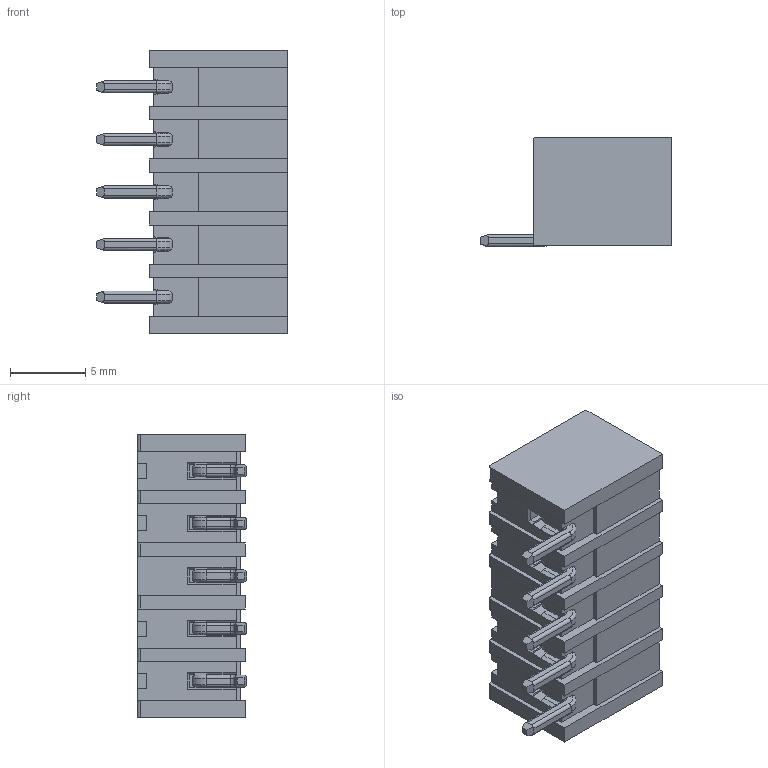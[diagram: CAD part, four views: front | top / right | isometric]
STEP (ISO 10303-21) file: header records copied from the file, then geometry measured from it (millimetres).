
FILE_DESCRIPTION (( 'STEP AP214' ), '1' );
FILE_NAME ('110-M-211-SMD-05.STEP', '2016-12-05T15:36:56', ( '' ), ( '' ), 'SwSTEP 2.0', 'SolidWorks 2016', '' );
FILE_SCHEMA (( 'AUTOMOTIVE_DESIGN' ));
Length unit declared in the file: millimetre
Products named in the file (1): 110-M-211-SMD-05
Bounding box: 12.7 x 7.3 x 18.9 mm (x, y, z)
Volume: 618.1 mm3; surface area: 1687.6 mm2
Topology: 1 solids, 1 shells, 653 faces, 1724 edges, 1080 vertices
Faces by surface type: plane 442, cylinder 141, cone 30, bspline 30, torus 10
Entity records: 21096 total; most frequent: CARTESIAN_POINT 5768, ORIENTED_EDGE 3448, DIRECTION 2779, EDGE_CURVE 1724, LINE 1137, VECTOR 1137, VERTEX_POINT 1080, AXIS2_PLACEMENT_3D 821
